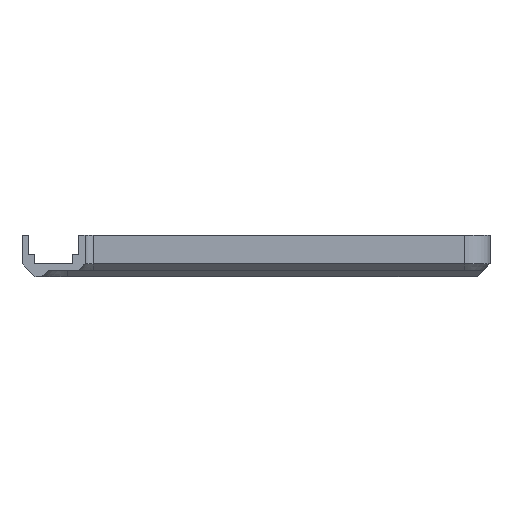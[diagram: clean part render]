
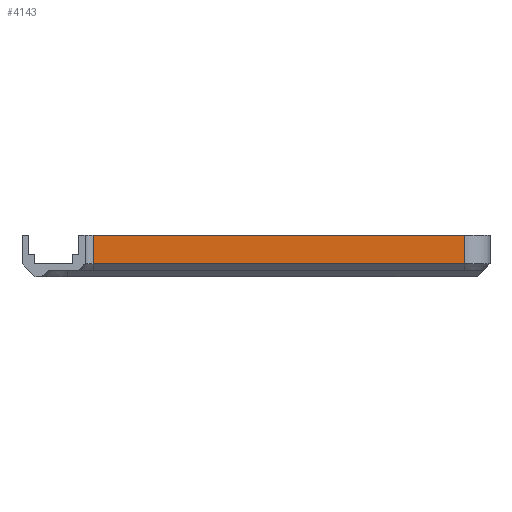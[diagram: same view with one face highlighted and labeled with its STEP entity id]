
A CAD part, left-side view. The second image highlights one B-rep face of the part: STEP entity #4143.
In plain terms, the highlighted planar face has unit normal (-1, 0, 0).
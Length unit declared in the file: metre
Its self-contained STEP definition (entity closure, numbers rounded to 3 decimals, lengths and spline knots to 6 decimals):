
#1324=ORIENTED_EDGE('',*,*,#1978,.T.);
#1325=ORIENTED_EDGE('',*,*,#1797,.F.);
#1326=ORIENTED_EDGE('',*,*,#1979,.F.);
#1327=ORIENTED_EDGE('',*,*,#1974,.T.);
#1797=EDGE_CURVE('',#2285,#2286,#2682,.T.);
#1974=EDGE_CURVE('',#2377,#2378,#2832,.T.);
#1978=EDGE_CURVE('',#2378,#2286,#2835,.T.);
#1979=EDGE_CURVE('',#2377,#2285,#2836,.T.);
#2285=VERTEX_POINT('',#6479);
#2286=VERTEX_POINT('',#6481);
#2377=VERTEX_POINT('',#6838);
#2378=VERTEX_POINT('',#6842);
#2682=LINE('',#6480,#3146);
#2832=LINE('',#6843,#3296);
#2835=LINE('',#6852,#3299);
#2836=LINE('',#6854,#3300);
#3146=VECTOR('',#5234,1.);
#3296=VECTOR('',#5624,1.);
#3299=VECTOR('',#5639,1.);
#3300=VECTOR('',#5642,1.);
#3533=EDGE_LOOP('',(#1324,#1325,#1326,#1327));
#3773=FACE_BOUND('',#3533,.T.);
#3930=PLANE('',#4501);
#4143=ADVANCED_FACE('',(#3773),#3930,.T.);
#4501=AXIS2_PLACEMENT_3D('',#6853,#5640,#5641);
#5234=DIRECTION('',(0.,-1.,0.));
#5624=DIRECTION('',(0.,-1.,0.));
#5639=DIRECTION('',(0.,0.,1.));
#5640=DIRECTION('',(-1.,0.,0.));
#5641=DIRECTION('',(0.,0.,1.));
#5642=DIRECTION('',(0.,0.,1.));
#6479=CARTESIAN_POINT('',(0.1525,0.04415,-0.00985));
#6480=CARTESIAN_POINT('',(0.1525,-0.013225,-0.00985));
#6481=CARTESIAN_POINT('',(0.1525,-0.0706,-0.00985));
#6838=CARTESIAN_POINT('',(0.1525,0.04415,-0.01875));
#6842=CARTESIAN_POINT('',(0.1525,-0.0706,-0.01875));
#6843=CARTESIAN_POINT('',(0.1525,-0.001225,-0.01875));
#6852=CARTESIAN_POINT('',(0.1525,-0.0706,-0.01975));
#6853=CARTESIAN_POINT('',(0.1525,-0.001225,-0.01975));
#6854=CARTESIAN_POINT('',(0.1525,0.04415,-0.01975));
